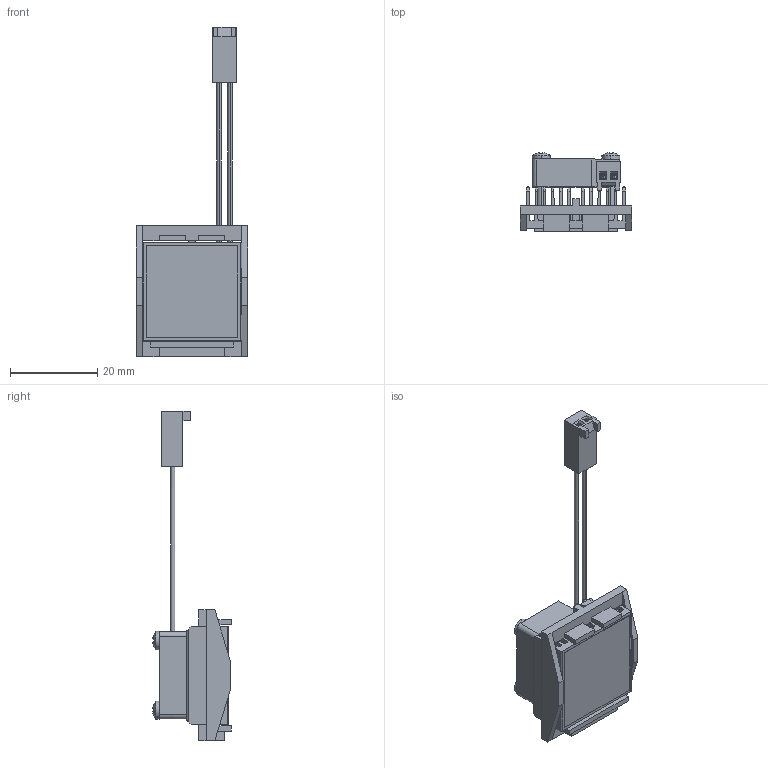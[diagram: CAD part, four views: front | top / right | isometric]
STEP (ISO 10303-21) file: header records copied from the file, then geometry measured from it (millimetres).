
FILE_DESCRIPTION (( 'STEP AP214' ), '1' );
FILE_NAME ('FI23-1.7+O.STEP', '2023-03-14T10:26:18', ( '' ), ( '' ), 'SwSTEP 2.0', 'SolidWorks 2020', '' );
FILE_SCHEMA (( 'AUTOMOTIVE_DESIGN' ));
Length unit declared in the file: millimetre
Products named in the file (1): FI23-1.7+O
Bounding box: 25.7 x 18.08 x 75.75 mm (x, y, z)
Volume: 5100.2 mm3; surface area: 11338.8 mm2
Topology: 10 solids, 10 shells, 405 faces, 1110 edges, 715 vertices
Faces by surface type: plane 246, cylinder 108, bspline 48, sphere 3
Entity records: 18818 total; most frequent: CARTESIAN_POINT 4469, ORIENTED_EDGE 2170, DIRECTION 1806, EDGE_CURVE 1085, VECTOR 736, LINE 736, VERTEX_POINT 712, AXIS2_PLACEMENT_3D 535
